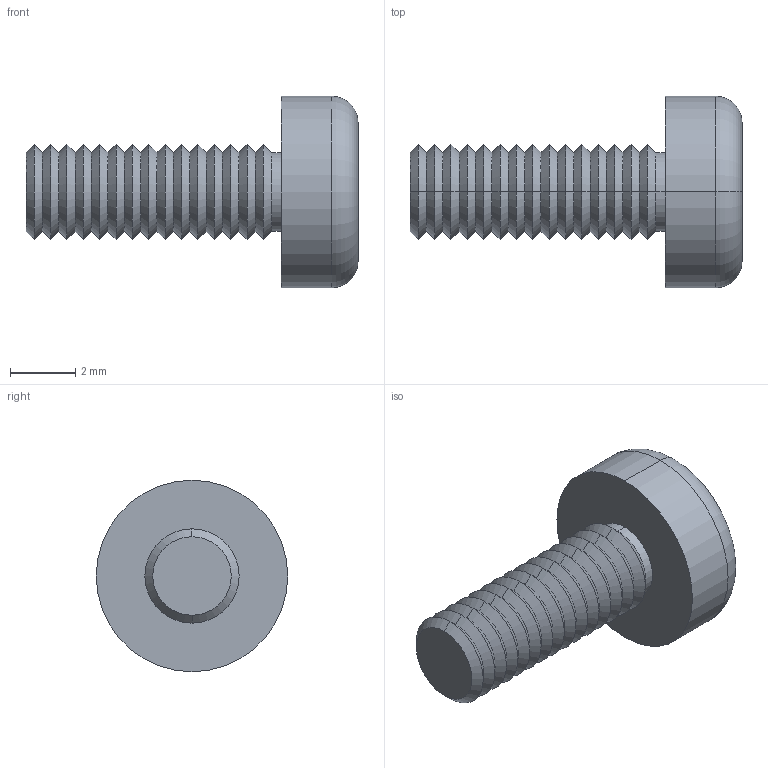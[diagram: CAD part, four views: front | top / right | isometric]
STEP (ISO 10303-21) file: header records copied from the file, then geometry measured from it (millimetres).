
FILE_DESCRIPTION (( 'STEP AP214' ), '1' );
FILE_NAME ('Metrico 3x7,9 PP86 B.STEP', '2016-11-14T15:09:57', ( 'aaa' ), ( '' ), 'SwSTEP 2.0', 'SolidWorks 2013', '' );
FILE_SCHEMA (( 'AUTOMOTIVE_DESIGN' ));
Length unit declared in the file: millimetre
Products named in the file (1): Metrico 3x7,9 PP86 B
Bounding box: 10.14 x 5.85 x 5.85 mm (x, y, z)
Volume: 100.7 mm3; surface area: 194.7 mm2
Topology: 1 solids, 1 shells, 82 faces, 172 edges, 94 vertices
Faces by surface type: cone 60, plane 16, cylinder 4, torus 2
Entity records: 2166 total; most frequent: DIRECTION 410, CARTESIAN_POINT 349, ORIENTED_EDGE 344, EDGE_CURVE 172, AXIS2_PLACEMENT_3D 155, LINE 100, VECTOR 100, VERTEX_POINT 94
